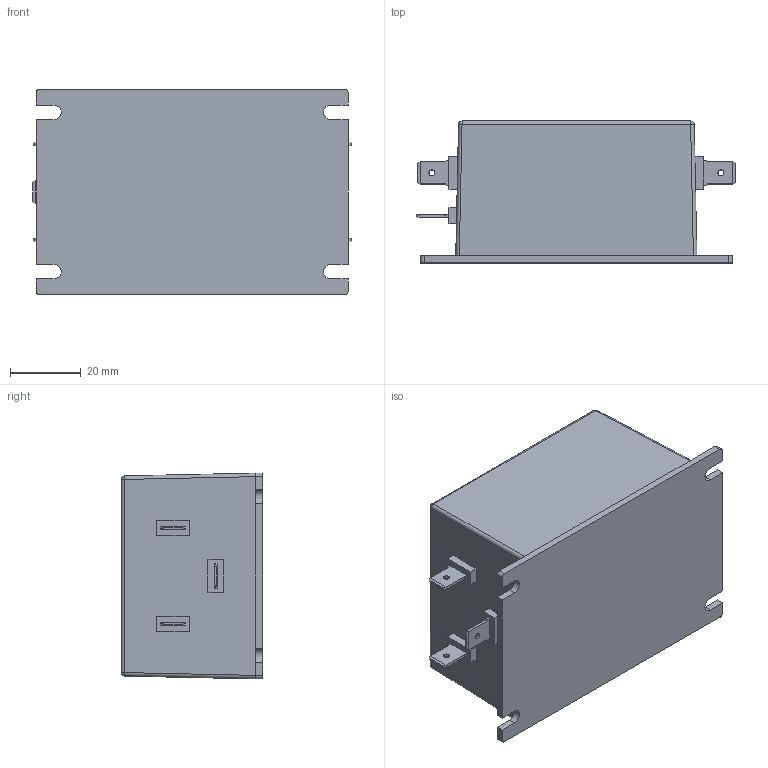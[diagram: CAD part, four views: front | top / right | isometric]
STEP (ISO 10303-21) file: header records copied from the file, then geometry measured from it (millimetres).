
FILE_DESCRIPTION (( 'STEP AP203' ), '1' );
FILE_NAME ('1M & 2M filter.STEP', '2014-12-17T10:11:40', ( 'Owner' ), ( 'EPA' ), 'SwSTEP 2.0', 'SolidWorks 2007', '' );
FILE_SCHEMA (( 'CONFIG_CONTROL_DESIGN' ));
Length unit declared in the file: millimetre
Products named in the file (3): Fast-on for 1M; 1M & 2M filter; 1M case
Assembly tree (6 placements, depth 2):
  1M & 2M filter
    Fast-on for 1M  x5
    1M case
Bounding box: 90.05 x 40 x 58.09 mm (x, y, z)
Volume: 156614.2 mm3; surface area: 21176.3 mm2
Topology: 6 solids, 6 shells, 189 faces, 466 edges, 296 vertices
Faces by surface type: plane 155, cylinder 30, sphere 4
Entity records: 3809 total; most frequent: CARTESIAN_POINT 620, ORIENTED_EDGE 572, DIRECTION 562, EDGE_CURVE 286, LINE 246, VECTOR 246, VERTEX_POINT 184, AXIS2_PLACEMENT_3D 158
